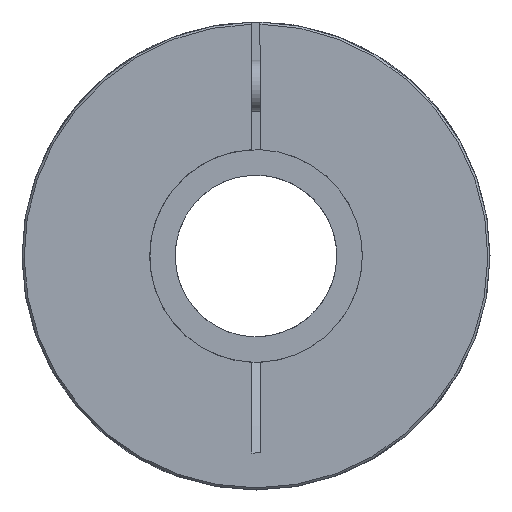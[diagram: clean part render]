
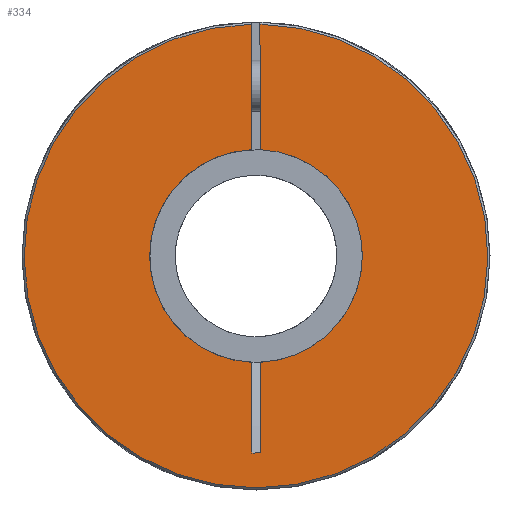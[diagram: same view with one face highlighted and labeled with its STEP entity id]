
A CAD part, left-side view. The second image highlights one B-rep face of the part: STEP entity #334.
In plain terms, the highlighted planar face has unit normal (-1, 0, 0).
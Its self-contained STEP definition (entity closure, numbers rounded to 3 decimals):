
#334 = ADVANCED_FACE( 'NONE', ( #684 ), #685, .F. );
#684 = FACE_OUTER_BOUND( '', #1053, .T. );
#685 = PLANE( '', #1054 );
#1053 = EDGE_LOOP( '', ( #1631, #1632, #1633, #1634, #1635, #1636, #1637, #1638 ) );
#1054 = AXIS2_PLACEMENT_3D( '', #1639, #1640, #1641 );
#1631 = ORIENTED_EDGE( '', *, *, #2056, .T. );
#1632 = ORIENTED_EDGE( '', *, *, #2057, .T. );
#1633 = ORIENTED_EDGE( '', *, *, #1973, .T. );
#1634 = ORIENTED_EDGE( '', *, *, #1936, .T. );
#1635 = ORIENTED_EDGE( '', *, *, #1923, .F. );
#1636 = ORIENTED_EDGE( '', *, *, #2058, .T. );
#1637 = ORIENTED_EDGE( '', *, *, #1971, .F. );
#1638 = ORIENTED_EDGE( '', *, *, #1895, .T. );
#1639 = CARTESIAN_POINT( '', ( 0., 15., 0. ) );
#1640 = DIRECTION( '', ( 1., 0., 0. ) );
#1641 = DIRECTION( '', ( 0., 1., 0. ) );
#1895 = EDGE_CURVE( 'NONE', #2175, #2179, #2181, .T. );
#1923 = EDGE_CURVE( '', #2224, #2227, #2228, .F. );
#1936 = EDGE_CURVE( 'NONE', #2247, #2227, #2248, .F. );
#1971 = EDGE_CURVE( 'NONE', #2175, #2300, #2302, .F. );
#1973 = EDGE_CURVE( '', #2304, #2247, #2305, .T. );
#2056 = EDGE_CURVE( 'NONE', #2179, #2417, #2418, .T. );
#2057 = EDGE_CURVE( '', #2417, #2304, #2419, .T. );
#2058 = EDGE_CURVE( '', #2224, #2300, #2420, .T. );
#2175 = VERTEX_POINT( 'NONE', #2722 );
#2179 = VERTEX_POINT( 'NONE', #2729 );
#2181 = LINE( '', #2731, #2732 );
#2224 = VERTEX_POINT( '', #2784 );
#2227 = VERTEX_POINT( 'NONE', #2788 );
#2228 = LINE( '', #2789, #2790 );
#2247 = VERTEX_POINT( 'NONE', #2813 );
#2248 = CIRCLE( '', #2814, 54.5 );
#2300 = VERTEX_POINT( '', #3054 );
#2302 = LINE( '', #3057, #3058 );
#2304 = VERTEX_POINT( '', #3060 );
#2305 = LINE( '', #3061, #3062 );
#2417 = VERTEX_POINT( '', #3195 );
#2418 = LINE( '', #3196, #3197 );
#2419 = CIRCLE( '', #3198, 25. );
#2420 = CIRCLE( '', #3199, 25. );
#2722 = CARTESIAN_POINT( '', ( 0., 46.303, -1. ) );
#2729 = CARTESIAN_POINT( '', ( 0., 46.303, 1. ) );
#2731 = CARTESIAN_POINT( '', ( 0., 46.303, -1. ) );
#2732 = VECTOR( '', #3327, 1000. );
#2784 = CARTESIAN_POINT( '', ( 0., -24.98, -1. ) );
#2788 = CARTESIAN_POINT( '', ( 0., -54.491, -1. ) );
#2789 = CARTESIAN_POINT( '', ( 0., -15., -1. ) );
#2790 = VECTOR( '', #3368, 1000. );
#2813 = CARTESIAN_POINT( '', ( 0., -54.491, 1. ) );
#2814 = AXIS2_PLACEMENT_3D( '', #3388, #3389, #3390 );
#3054 = CARTESIAN_POINT( '', ( 0., 24.98, -1. ) );
#3057 = CARTESIAN_POINT( '', ( 0., -15., -1. ) );
#3058 = VECTOR( '', #3434, 1000. );
#3060 = CARTESIAN_POINT( '', ( 0., -24.98, 1. ) );
#3061 = CARTESIAN_POINT( '', ( 0., 15., 1. ) );
#3062 = VECTOR( '', #3435, 1000. );
#3195 = CARTESIAN_POINT( '', ( 0., 24.98, 1. ) );
#3196 = CARTESIAN_POINT( '', ( 0., 15., 1. ) );
#3197 = VECTOR( '', #3538, 1000. );
#3198 = AXIS2_PLACEMENT_3D( '', #3539, #3540, #3541 );
#3199 = AXIS2_PLACEMENT_3D( '', #3542, #3543, #3544 );
#3327 = DIRECTION( '', ( 0., 0., 1. ) );
#3368 = DIRECTION( '', ( 0., 1., 0. ) );
#3388 = CARTESIAN_POINT( '', ( 0., 0., 0. ) );
#3389 = DIRECTION( '', ( 1., 0., 0. ) );
#3390 = DIRECTION( '', ( 0., 0., -1. ) );
#3434 = DIRECTION( '', ( 0., 1., 0. ) );
#3435 = DIRECTION( '', ( 0., -1., 0. ) );
#3538 = DIRECTION( '', ( 0., -1., 0. ) );
#3539 = CARTESIAN_POINT( '', ( 0., 0., 0. ) );
#3540 = DIRECTION( '', ( 1., 0., 0. ) );
#3541 = DIRECTION( '', ( 0., 0., -1. ) );
#3542 = CARTESIAN_POINT( '', ( 0., 0., 0. ) );
#3543 = DIRECTION( '', ( 1., 0., 0. ) );
#3544 = DIRECTION( '', ( 0., 0., -1. ) );
